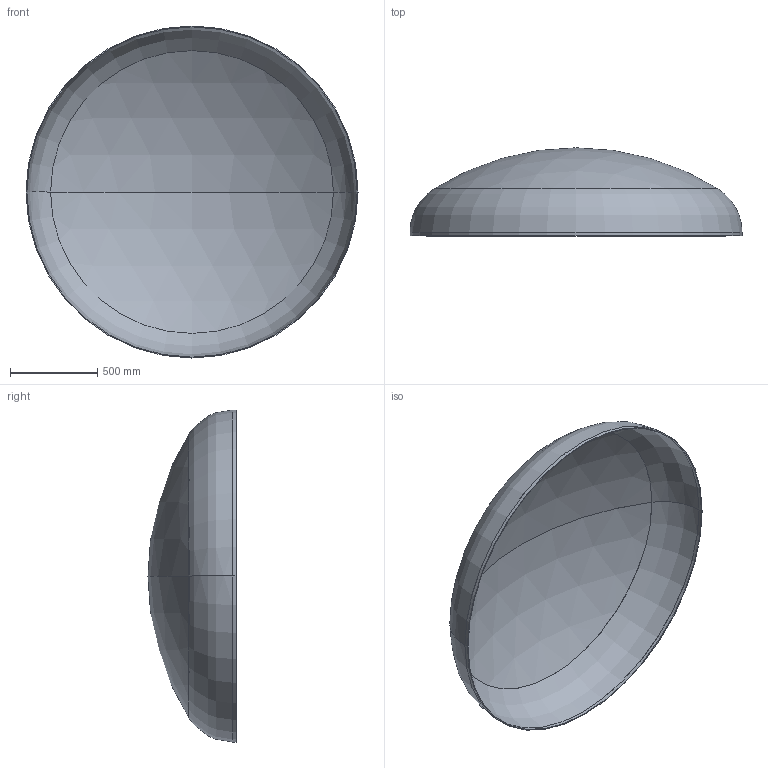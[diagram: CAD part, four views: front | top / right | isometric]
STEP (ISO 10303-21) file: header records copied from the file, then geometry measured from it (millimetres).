
FILE_DESCRIPTION (( 'STEP AP203' ), '1' );
FILE_NAME ('DIN 28013 Korbbogenform_-_Boden DIN 28013 - 1900 x 20 - I - s=5.step', '2016-07-01T12:51:31', ( '' ), ( '' ), 'SwSTEP 2.0', 'SolidWorks 2013', '' );
FILE_SCHEMA (( 'CONFIG_CONTROL_DESIGN' ));
Length unit declared in the file: millimetre
Products named in the file (1): DIN 28013 Korbbogenform_-_Boden DIN 28013 - 1900 x 20 - I - s=5
Bounding box: 1900 x 503.91 x 1900 mm (x, y, z)
Volume: 20129063.2 mm3; surface area: 8081440.9 mm2
Topology: 1 solids, 1 shells, 13 faces, 24 edges, 14 vertices
Faces by surface type: torus 4, cylinder 4, sphere 4, plane 1
Entity records: 407 total; most frequent: DIRECTION 72, CARTESIAN_POINT 52, ORIENTED_EDGE 48, AXIS2_PLACEMENT_3D 34, EDGE_CURVE 24, CIRCLE 20, VERTEX_POINT 14, EDGE_LOOP 14
